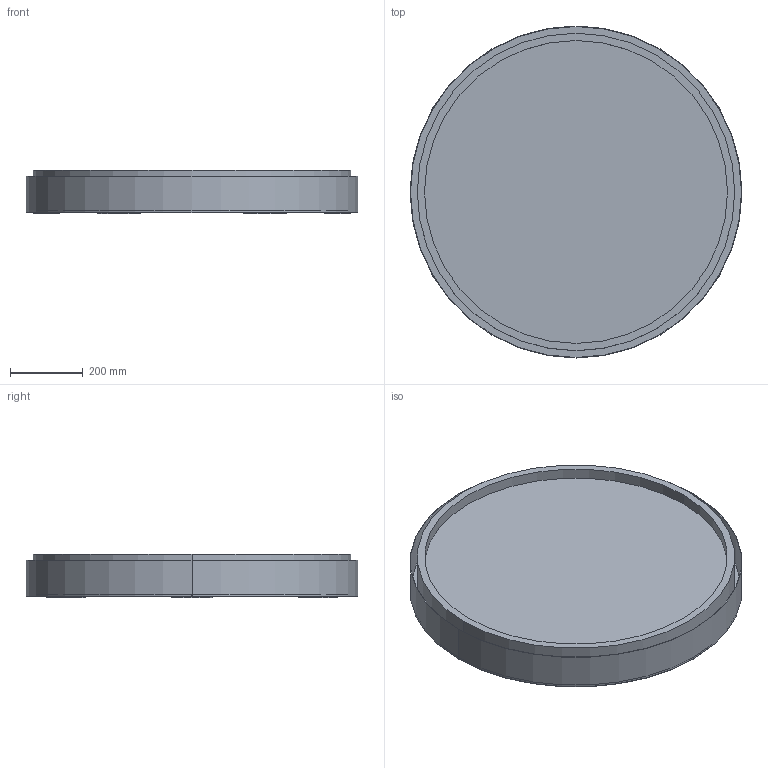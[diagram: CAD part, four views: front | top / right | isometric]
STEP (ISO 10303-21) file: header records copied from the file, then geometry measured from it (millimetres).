
FILE_DESCRIPTION (( 'STEP AP203' ), '1' );
FILE_NAME ('Okr¹g³a natynkowa 915.STEP', '2020-07-12T21:21:25', ( '' ), ( '' ), 'SwSTEP 2.0', 'SolidWorks 2012', '' );
FILE_SCHEMA (( 'CONFIG_CONTROL_DESIGN' ));
Length unit declared in the file: millimetre
Products named in the file (1): Okr鉚豉 natynkowa 915
Bounding box: 915 x 915 x 120.6 mm (x, y, z)
Volume: 10528764.4 mm3; surface area: 3657940.4 mm2
Topology: 2 solids, 2 shells, 280 faces, 732 edges, 488 vertices
Faces by surface type: cylinder 220, plane 60
Entity records: 9031 total; most frequent: DIRECTION 1734, CARTESIAN_POINT 1501, ORIENTED_EDGE 1464, EDGE_CURVE 732, AXIS2_PLACEMENT_3D 721, VERTEX_POINT 488, CIRCLE 440, EDGE_LOOP 362
